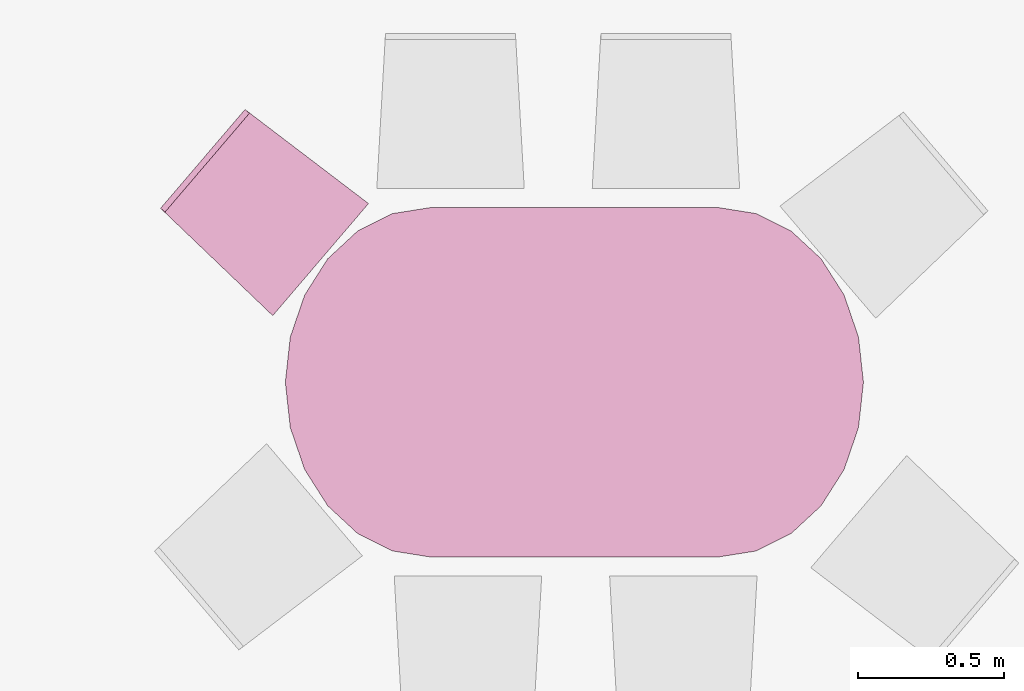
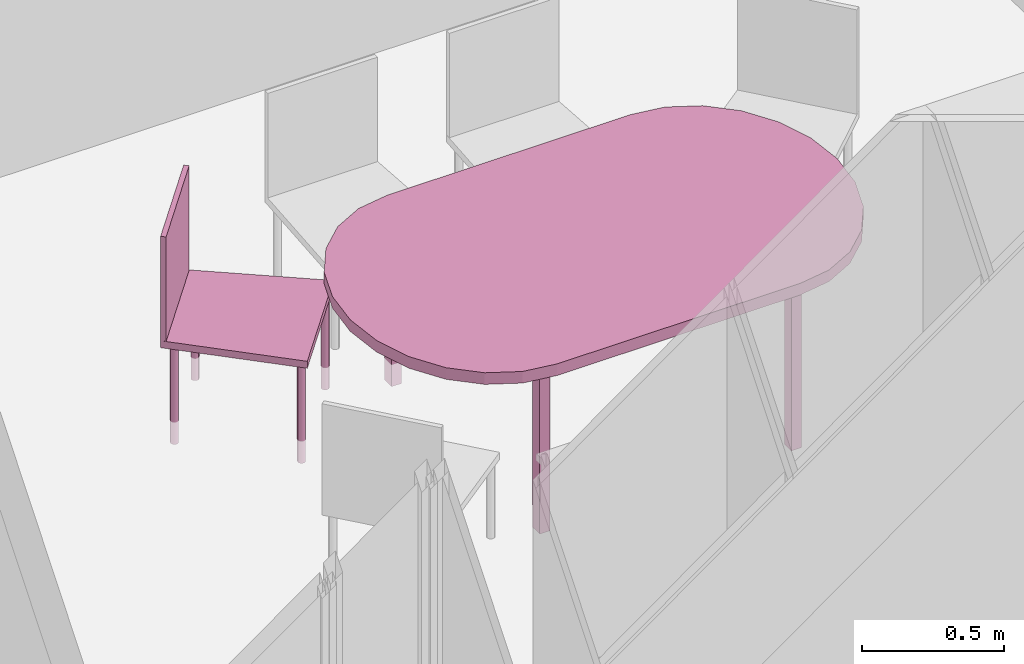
"""IFC4 building model written with IfcOpenShell, lengths in metres."""

from ifc_helpers import new_model, entity, si_unit, converted_unit, derived_unit, frame, origin, place, context, subcontext, project, spatial, faceted_brep, element, save


model = new_model("IFC4")

# Units and contexts
model_context = context("Model", 3, precision=1e-05, world=origin())
body_context = subcontext(model_context, "Body", "Model", "MODEL_VIEW")
ifc_project = project(units=[si_unit("LENGTHUNIT", "METRE"), si_unit("AREAUNIT", "SQUARE_METRE"), si_unit("VOLUMEUNIT", "CUBIC_METRE"), si_unit("MASSUNIT", "GRAM", prefix="KILO"), converted_unit("PLANEANGLEUNIT", "DEGREE", entity("IfcPlaneAngleMeasure", 0.0174532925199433), si_unit("PLANEANGLEUNIT", "RADIAN"), dimensions=[0, 0, 0, 0, 0, 0, 0]), derived_unit("THERMALTRANSMITTANCEUNIT", [(si_unit("POWERUNIT", "WATT"), 1), (si_unit("THERMODYNAMICTEMPERATUREUNIT", "KELVIN"), -1), (si_unit("LENGTHUNIT", "METRE"), -2)]), derived_unit("VOLUMETRICFLOWRATEUNIT", [(si_unit("LENGTHUNIT", "METRE"), 3), (converted_unit("TIMEUNIT", "hour", entity("IfcTimeMeasure", 3600.0), si_unit("TIMEUNIT", "SECOND"), dimensions=[0, 0, 1, 0, 0, 0, 0]), -1), (si_unit("LENGTHUNIT", "METRE"), -1)])], contexts=[model_context])

# Building, storeys
building_placement = place(None, origin())
building = spatial("IfcBuilding", under=ifc_project, at=building_placement, Name="HABITATGE PLURIFAMILIAR", CompositionType="ELEMENT")
storey_1_placement = place(building_placement, frame((0.0, 0.0, 12.27)))
storey_1 = spatial("IfcBuildingStorey", under=building, at=storey_1_placement, Name="PLANTA TERCERA", CompositionType="ELEMENT", Elevation=12.27)
storey_2_placement = place(storey_1_placement, frame((0.0, 0.0, 9.26)))
storey_2 = spatial("IfcBuildingStorey", under=storey_1, at=storey_2_placement, Name="NOU", CompositionType="PARTIAL")

# Furniture
furniture_1_placement = place(storey_2_placement, frame((407.679228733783, 14.3792976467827, -9.35624107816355)))
element("IfcFurniture", 1, at=furniture_1_placement, inside=storey_2, Name="Taula 200X120_P3", context=body_context, shape_type="Brep", body=[
    faceted_brep([(1.48958895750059, 1.19989999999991, 0.7), (0.496502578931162, 1.19989999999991, 0.7), (0.367998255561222, 1.17945719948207, 0.7), (0.248251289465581, 1.11952194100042, 0.7), (0.145422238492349, 1.02417871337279, 0.7), (0.0665187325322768, 0.89992499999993, 0.7), (0.0169179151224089, 0.755228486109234, 0.7), (0.0, 0.599949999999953, 0.7), (0.0169179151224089, 0.444671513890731, 0.7), (0.0665187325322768, 0.299974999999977, 0.7), (0.145422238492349, 0.175721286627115, 0.7), (0.248251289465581, 0.080378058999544, 0.7), (0.367998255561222, 0.0204428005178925, 0.7), (0.496502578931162, 0.0, 0.7), (1.48958895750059, 0.0, 0.7), (1.61809328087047, 0.0204428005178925, 0.7), (1.73784024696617, 0.080378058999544, 0.7), (1.8406692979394, 0.175721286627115, 0.7), (1.91957280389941, 0.299974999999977, 0.7), (1.96917362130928, 0.444671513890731, 0.7), (1.98609153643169, 0.599949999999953, 0.7), (1.96917362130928, 0.755228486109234, 0.7), (1.91957280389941, 0.89992499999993, 0.7), (1.8406692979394, 1.02417871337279, 0.7), (1.73784024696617, 1.11952194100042, 0.7), (1.61809328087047, 1.17945719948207, 0.7), (1.48958895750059, 0.0, 0.75), (0.496502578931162, 0.0, 0.75), (0.367998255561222, 0.0204428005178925, 0.75), (0.248251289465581, 0.080378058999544, 0.75), (0.145422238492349, 0.175721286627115, 0.75), (0.0665187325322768, 0.299974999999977, 0.75), (0.0169179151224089, 0.444671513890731, 0.75), (0.0, 0.599949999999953, 0.75), (0.0169179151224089, 0.755228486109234, 0.75), (0.0665187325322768, 0.89992499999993, 0.75), (0.145422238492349, 1.02417871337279, 0.75), (0.248251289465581, 1.11952194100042, 0.75), (0.367998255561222, 1.17945719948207, 0.75), (0.496502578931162, 1.19989999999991, 0.75), (1.48958895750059, 1.19989999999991, 0.75), (1.61809328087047, 1.17945719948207, 0.75), (1.73784024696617, 1.11952194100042, 0.75), (1.8406692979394, 1.02417871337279, 0.75), (1.91957280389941, 0.89992499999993, 0.75), (1.96917362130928, 0.755228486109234, 0.75), (1.98609153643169, 0.599949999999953, 0.75), (1.96917362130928, 0.444671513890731, 0.75), (1.91957280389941, 0.299974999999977, 0.75), (1.8406692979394, 0.175721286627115, 0.75), (1.73784024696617, 0.080378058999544, 0.75), (1.61809328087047, 0.0204428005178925, 0.75)], [[[0, 1, 2, 3, 4, 5, 6, 7, 8, 9, 10, 11, 12, 13, 14, 15, 16, 17, 18, 19, 20, 21, 22, 23, 24, 25]], [[26, 27, 28, 29, 30, 31, 32, 33, 34, 35, 36, 37, 38, 39, 40, 41, 42, 43, 44, 45, 46, 47, 48, 49, 50, 51]], [[40, 39, 1, 0]], [[40, 0, 25, 41]], [[41, 25, 24, 42]], [[42, 24, 23, 43]], [[43, 23, 22, 44]], [[44, 22, 21, 45]], [[45, 21, 20, 46]], [[46, 20, 19, 47]], [[47, 19, 18, 48]], [[48, 18, 17, 49]], [[49, 17, 16, 50]], [[50, 16, 15, 51]], [[51, 15, 14, 26]], [[27, 26, 14, 13]], [[27, 13, 12, 28]], [[28, 12, 11, 29]], [[29, 11, 10, 30]], [[30, 10, 9, 31]], [[31, 9, 8, 32]], [[32, 8, 7, 33]], [[33, 7, 6, 34]], [[34, 6, 5, 35]], [[35, 5, 4, 36]], [[36, 4, 3, 37]], [[37, 3, 2, 38]], [[38, 2, 1, 39]]], orient=[[False], [False], [False], [False], [False], [False], [False], [False], [False], [False], [False], [False], [False], [False], [False], [False], [False], [False], [False], [False], [False], [False], [False], [False], [False], [False], [False], [False]]),
    faceted_brep([(0.455123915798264, 0.05, 0.0), (0.496502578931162, 0.05, 0.0), (0.496502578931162, 0.1, 0.0), (0.455123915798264, 0.1, 0.0), (0.496502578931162, 0.05, 0.7), (0.455123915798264, 0.05, 0.7), (0.455123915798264, 0.1, 0.7), (0.496502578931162, 0.1, 0.7)], [[[0, 1, 2, 3]], [[4, 5, 6, 7]], [[1, 0, 5, 4]], [[2, 1, 4, 7]], [[3, 2, 7, 6]], [[0, 3, 6, 5]]], orient=[[False], [False], [False], [False], [False], [False]]),
    faceted_brep([(0.455123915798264, 1.09781286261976, 0.0), (0.496502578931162, 1.09781286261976, 0.0), (0.496502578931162, 1.14781286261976, 0.0), (0.455123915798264, 1.14781286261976, 0.0), (0.496502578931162, 1.09781286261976, 0.7), (0.455123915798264, 1.09781286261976, 0.7), (0.455123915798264, 1.14781286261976, 0.7), (0.496502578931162, 1.14781286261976, 0.7)], [[[0, 1, 2, 3]], [[4, 5, 6, 7]], [[1, 0, 5, 4]], [[2, 1, 4, 7]], [[3, 2, 7, 6]], [[0, 3, 6, 5]]], orient=[[False], [False], [False], [False], [False], [False]]),
    faceted_brep([(1.48131476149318, 1.14781286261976, 0.0), (1.48131476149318, 1.09781286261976, 0.0), (1.52269342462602, 1.09781286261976, 0.0), (1.52269342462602, 1.14781286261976, 0.0), (1.52269342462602, 1.14781286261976, 0.7), (1.52269342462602, 1.09781286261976, 0.7), (1.48131476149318, 1.09781286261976, 0.7), (1.48131476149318, 1.14781286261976, 0.7)], [[[0, 1, 2, 3]], [[4, 5, 6, 7]], [[3, 4, 7, 0]], [[2, 5, 4, 3]], [[1, 6, 5, 2]], [[0, 7, 6, 1]]], orient=[[False], [False], [False], [False], [False], [False]]),
    faceted_brep([(1.48131476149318, 0.1, 0.0), (1.48131476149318, 0.05, 0.0), (1.52269342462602, 0.05, 0.0), (1.52269342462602, 0.1, 0.0), (1.52269342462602, 0.1, 0.7), (1.52269342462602, 0.05, 0.7), (1.48131476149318, 0.05, 0.7), (1.48131476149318, 0.1, 0.7)], [[[0, 1, 2, 3]], [[4, 5, 6, 7]], [[3, 4, 7, 0]], [[2, 5, 4, 3]], [[1, 6, 5, 2]], [[0, 7, 6, 1]]], orient=[[False], [False], [False], [False], [False], [False]]),
])
furniture_2_placement = place(storey_2_placement, frame((407.250552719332, 15.2082195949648, -9.35699031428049)))
element("IfcFurniture", 2, at=furniture_2_placement, inside=storey_2, Name="Cadira confident_P3", context=body_context, shape_type="Brep", body=[
    faceted_brep([(0.68936615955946, 0.394320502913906, 0.0), (0.687247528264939, 0.39583430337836, 0.0), (0.684898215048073, 0.396957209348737, 0.0), (0.682389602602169, 0.3976551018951, 0.0), (0.679797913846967, 0.397906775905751, 0.0), (0.677201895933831, 0.397704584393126, 0.0), (0.674680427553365, 0.397054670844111, 0.0), (0.672310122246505, 0.395976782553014, 0.0), (0.6701630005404, 0.394503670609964, 0.0), (0.668304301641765, 0.392680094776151, 0.0), (0.666790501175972, 0.390561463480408, 0.0), (0.665667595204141, 0.388212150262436, 0.0), (0.664969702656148, 0.385703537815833, 0.0), (0.664718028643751, 0.383111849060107, 0.0), (0.66492022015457, 0.380515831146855, 0.0), (0.665570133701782, 0.377994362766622, 0.0), (0.666648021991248, 0.375624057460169, 0.0), (0.668121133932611, 0.373476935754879, 0.0), (0.669944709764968, 0.371618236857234, 0.0), (0.672063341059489, 0.370104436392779, 0.0), (0.674412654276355, 0.368981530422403, 0.0), (0.676921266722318, 0.36828363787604, 0.0), (0.679512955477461, 0.368031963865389, 0.0), (0.682108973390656, 0.368234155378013, 0.0), (0.684630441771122, 0.368884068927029, 0.0), (0.687000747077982, 0.369961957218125, 0.0), (0.689147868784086, 0.371435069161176, 0.0), (0.691006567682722, 0.373258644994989, 0.0), (0.692520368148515, 0.375377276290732, 0.0), (0.693643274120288, 0.377726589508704, 0.0), (0.694341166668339, 0.380235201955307, 0.0), (0.694592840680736, 0.382826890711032, 0.0), (0.694390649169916, 0.385422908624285, 0.0), (0.693740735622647, 0.387944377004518, 0.0), (0.692662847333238, 0.390314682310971, 0.0), (0.691189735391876, 0.39246180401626, 0.0), (0.68936615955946, 0.394320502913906, 0.448281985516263), (0.691189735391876, 0.39246180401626, 0.448281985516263), (0.692662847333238, 0.390314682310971, 0.448281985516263), (0.693740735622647, 0.387944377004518, 0.448281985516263), (0.694390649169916, 0.385422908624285, 0.448281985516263), (0.694592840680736, 0.382826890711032, 0.448281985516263), (0.694341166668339, 0.380235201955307, 0.448281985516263), (0.693643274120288, 0.377726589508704, 0.448281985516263), (0.692520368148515, 0.375377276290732, 0.448281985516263), (0.691006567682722, 0.373258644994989, 0.448281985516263), (0.689147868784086, 0.371435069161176, 0.448281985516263), (0.687000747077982, 0.369961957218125, 0.448281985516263), (0.684630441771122, 0.368884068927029, 0.448281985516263), (0.682108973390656, 0.368234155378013, 0.448281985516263), (0.679512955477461, 0.368031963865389, 0.448281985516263), (0.676921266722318, 0.36828363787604, 0.448281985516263), (0.674412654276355, 0.368981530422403, 0.448281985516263), (0.672063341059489, 0.370104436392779, 0.448281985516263), (0.669944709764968, 0.371618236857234, 0.448281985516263), (0.668121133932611, 0.373476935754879, 0.448281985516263), (0.666648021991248, 0.375624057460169, 0.448281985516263), (0.665570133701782, 0.377994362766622, 0.448281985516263), (0.66492022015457, 0.380515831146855, 0.448281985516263), (0.664718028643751, 0.383111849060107, 0.448281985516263), (0.664969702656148, 0.385703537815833, 0.448281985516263), (0.665667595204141, 0.388212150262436, 0.448281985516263), (0.666790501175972, 0.390561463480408, 0.448281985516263), (0.668304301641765, 0.392680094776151, 0.448281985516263), (0.6701630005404, 0.394503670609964, 0.448281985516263), (0.672310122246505, 0.395976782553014, 0.448281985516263), (0.674680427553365, 0.397054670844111, 0.448281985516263), (0.677201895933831, 0.397704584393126, 0.448281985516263), (0.679797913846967, 0.397906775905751, 0.448281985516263), (0.682389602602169, 0.3976551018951, 0.448281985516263), (0.684898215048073, 0.396957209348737, 0.448281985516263), (0.687247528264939, 0.39583430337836, 0.448281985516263)], [[[0, 1, 2, 3, 4, 5, 6, 7, 8, 9, 10, 11, 12, 13, 14, 15, 16, 17, 18, 19, 20, 21, 22, 23, 24, 25, 26, 27, 28, 29, 30, 31, 32, 33, 34, 35]], [[36, 37, 38, 39, 40, 41, 42, 43, 44, 45, 46, 47, 48, 49, 50, 51, 52, 53, 54, 55, 56, 57, 58, 59, 60, 61, 62, 63, 64, 65, 66, 67, 68, 69, 70, 71]], [[1, 0, 36, 71]], [[2, 1, 71, 70]], [[3, 2, 70, 69]], [[4, 3, 69, 68]], [[5, 4, 68, 67]], [[6, 5, 67, 66]], [[7, 6, 66, 65]], [[8, 7, 65, 64]], [[9, 8, 64, 63]], [[10, 9, 63, 62]], [[11, 10, 62, 61]], [[12, 11, 61, 60]], [[13, 12, 60, 59]], [[14, 13, 59, 58]], [[15, 14, 58, 57]], [[16, 15, 57, 56]], [[17, 16, 56, 55]], [[18, 17, 55, 54]], [[19, 18, 54, 53]], [[20, 19, 53, 52]], [[21, 20, 52, 51]], [[22, 21, 51, 50]], [[23, 22, 50, 49]], [[24, 23, 49, 48]], [[25, 24, 48, 47]], [[26, 25, 47, 46]], [[27, 26, 46, 45]], [[28, 27, 45, 44]], [[29, 28, 44, 43]], [[30, 29, 43, 42]], [[31, 30, 42, 41]], [[32, 31, 41, 40]], [[33, 32, 40, 39]], [[34, 33, 39, 38]], [[35, 34, 38, 37]], [[0, 35, 37, 36]]], orient=[[False], [False], [False], [False], [False], [False], [False], [False], [False], [False], [False], [False], [False], [False], [False], [False], [False], [False], [False], [False], [False], [False], [False], [False], [False], [False], [False], [False], [False], [False], [False], [False], [False], [False], [False], [False], [False], [False]]),
    faceted_brep([(0.319861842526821, 0.673696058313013, 0.0), (0.3177432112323, 0.675209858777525, 0.0), (0.315393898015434, 0.676332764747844, 0.0), (0.312885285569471, 0.677030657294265, 0.0), (0.31029359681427, 0.677282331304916, 0.0), (0.307697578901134, 0.677080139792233, 0.0), (0.305176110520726, 0.676430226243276, 0.0), (0.302805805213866, 0.675352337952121, 0.0), (0.300658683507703, 0.673879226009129, 0.0), (0.298799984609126, 0.672055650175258, 0.0), (0.297286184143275, 0.669937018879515, 0.0), (0.296163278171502, 0.667587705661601, 0.0), (0.295465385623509, 0.665079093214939, 0.0), (0.295213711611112, 0.662487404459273, 0.0), (0.295415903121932, 0.659891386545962, 0.0), (0.296065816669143, 0.657369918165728, 0.0), (0.297143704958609, 0.654999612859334, 0.0), (0.298616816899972, 0.652852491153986, 0.0), (0.300440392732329, 0.650993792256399, 0.0), (0.30255902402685, 0.649479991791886, 0.0), (0.304908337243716, 0.648357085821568, 0.0), (0.307416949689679, 0.647659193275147, 0.0), (0.31000863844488, 0.647407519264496, 0.0), (0.312604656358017, 0.647609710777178, 0.0), (0.315126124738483, 0.648259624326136, 0.0), (0.317496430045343, 0.64933751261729, 0.0), (0.319643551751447, 0.650810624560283, 0.0), (0.321502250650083, 0.652634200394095, 0.0), (0.323016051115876, 0.654752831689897, 0.0), (0.324138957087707, 0.657102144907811, 0.0), (0.3248368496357, 0.659610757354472, 0.0), (0.325088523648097, 0.662202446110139, 0.0), (0.324886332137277, 0.66479846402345, 0.0), (0.324236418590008, 0.667319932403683, 0.0), (0.3231585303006, 0.669690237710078, 0.0), (0.321685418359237, 0.671837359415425, 0.0), (0.319861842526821, 0.673696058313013, 0.448281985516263), (0.321685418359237, 0.671837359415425, 0.448281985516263), (0.3231585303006, 0.669690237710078, 0.448281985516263), (0.324236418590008, 0.667319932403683, 0.448281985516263), (0.324886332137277, 0.66479846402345, 0.448281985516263), (0.325088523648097, 0.662202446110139, 0.448281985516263), (0.3248368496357, 0.659610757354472, 0.448281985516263), (0.324138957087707, 0.657102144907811, 0.448281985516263), (0.323016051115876, 0.654752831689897, 0.448281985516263), (0.321502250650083, 0.652634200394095, 0.448281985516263), (0.319643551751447, 0.650810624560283, 0.448281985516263), (0.317496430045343, 0.64933751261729, 0.448281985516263), (0.315126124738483, 0.648259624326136, 0.448281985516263), (0.312604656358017, 0.647609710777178, 0.448281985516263), (0.31000863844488, 0.647407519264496, 0.448281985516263), (0.307416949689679, 0.647659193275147, 0.448281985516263), (0.304908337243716, 0.648357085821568, 0.448281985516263), (0.30255902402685, 0.649479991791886, 0.448281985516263), (0.300440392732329, 0.650993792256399, 0.448281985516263), (0.298616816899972, 0.652852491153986, 0.448281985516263), (0.297143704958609, 0.654999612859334, 0.448281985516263), (0.296065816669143, 0.657369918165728, 0.448281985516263), (0.295415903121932, 0.659891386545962, 0.448281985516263), (0.295213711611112, 0.662487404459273, 0.448281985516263), (0.295465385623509, 0.665079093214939, 0.448281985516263), (0.296163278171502, 0.667587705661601, 0.448281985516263), (0.297286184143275, 0.669937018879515, 0.448281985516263), (0.298799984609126, 0.672055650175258, 0.448281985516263), (0.300658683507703, 0.673879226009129, 0.448281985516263), (0.302805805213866, 0.675352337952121, 0.448281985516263), (0.305176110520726, 0.676430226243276, 0.448281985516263), (0.307697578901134, 0.677080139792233, 0.448281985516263), (0.31029359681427, 0.677282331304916, 0.448281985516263), (0.312885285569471, 0.677030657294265, 0.448281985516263), (0.315393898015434, 0.676332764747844, 0.448281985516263), (0.3177432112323, 0.675209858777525, 0.448281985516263)], [[[0, 1, 2, 3, 4, 5, 6, 7, 8, 9, 10, 11, 12, 13, 14, 15, 16, 17, 18, 19, 20, 21, 22, 23, 24, 25, 26, 27, 28, 29, 30, 31, 32, 33, 34, 35]], [[36, 37, 38, 39, 40, 41, 42, 43, 44, 45, 46, 47, 48, 49, 50, 51, 52, 53, 54, 55, 56, 57, 58, 59, 60, 61, 62, 63, 64, 65, 66, 67, 68, 69, 70, 71]], [[1, 0, 36, 71]], [[2, 1, 71, 70]], [[3, 2, 70, 69]], [[4, 3, 69, 68]], [[5, 4, 68, 67]], [[6, 5, 67, 66]], [[7, 6, 66, 65]], [[8, 7, 65, 64]], [[9, 8, 64, 63]], [[10, 9, 63, 62]], [[11, 10, 62, 61]], [[12, 11, 61, 60]], [[13, 12, 60, 59]], [[14, 13, 59, 58]], [[15, 14, 58, 57]], [[16, 15, 57, 56]], [[17, 16, 56, 55]], [[18, 17, 55, 54]], [[19, 18, 54, 53]], [[20, 19, 53, 52]], [[21, 20, 52, 51]], [[22, 21, 51, 50]], [[23, 22, 50, 49]], [[24, 23, 49, 48]], [[25, 24, 48, 47]], [[26, 25, 47, 46]], [[27, 26, 46, 45]], [[28, 27, 45, 44]], [[29, 28, 44, 43]], [[30, 29, 43, 42]], [[31, 30, 42, 41]], [[32, 31, 41, 40]], [[33, 32, 40, 39]], [[34, 33, 39, 38]], [[35, 34, 38, 37]], [[0, 35, 37, 36]]], orient=[[False], [False], [False], [False], [False], [False], [False], [False], [False], [False], [False], [False], [False], [False], [False], [False], [False], [False], [False], [False], [False], [False], [False], [False], [False], [False], [False], [False], [False], [False], [False], [False], [False], [False], [False], [False], [False], [False]]),
    faceted_brep([(0.390542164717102, 0.0446002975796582, 0.0), (0.388423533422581, 0.0461140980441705, 0.0), (0.386074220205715, 0.0472370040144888, 0.0), (0.383565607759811, 0.0479348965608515, 0.0), (0.380973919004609, 0.0481865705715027, 0.0), (0.378377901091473, 0.0479843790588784, 0.0), (0.375856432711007, 0.0473344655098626, 0.0), (0.373486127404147, 0.0462565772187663, 0.0), (0.371339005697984, 0.0447834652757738, 0.0), (0.369480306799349, 0.0429598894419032, 0.0), (0.367966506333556, 0.0408412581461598, 0.0), (0.366843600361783, 0.0384919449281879, 0.0), (0.36614570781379, 0.0359833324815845, 0.0), (0.365894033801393, 0.0333916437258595, 0.0), (0.366096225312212, 0.0307956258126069, 0.0), (0.366746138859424, 0.0282741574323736, 0.0), (0.36782402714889, 0.0259038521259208, 0.0), (0.369297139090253, 0.0237567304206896, 0.0), (0.37112071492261, 0.0218980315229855, 0.0), (0.373239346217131, 0.0203842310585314, 0.0), (0.375588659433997, 0.019261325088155, 0.0), (0.378097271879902, 0.0185634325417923, 0.0), (0.380688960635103, 0.0183117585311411, 0.0), (0.383284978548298, 0.0185139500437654, 0.0), (0.385806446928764, 0.0191638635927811, 0.0), (0.388176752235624, 0.0202417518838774, 0.0), (0.39032387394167, 0.0217148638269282, 0.0), (0.392182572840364, 0.0235384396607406, 0.0), (0.393696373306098, 0.0256570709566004, 0.0), (0.39481927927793, 0.0280063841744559, 0.0), (0.395517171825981, 0.0305149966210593, 0.0), (0.395768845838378, 0.0331066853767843, 0.0), (0.395566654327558, 0.0357027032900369, 0.0), (0.394916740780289, 0.0382241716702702, 0.0), (0.393838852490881, 0.0405944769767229, 0.0), (0.392365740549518, 0.0427415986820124, 0.0), (0.390542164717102, 0.0446002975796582, 0.448281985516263), (0.392365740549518, 0.0427415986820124, 0.448281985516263), (0.393838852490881, 0.0405944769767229, 0.448281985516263), (0.394916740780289, 0.0382241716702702, 0.448281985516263), (0.395566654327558, 0.0357027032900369, 0.448281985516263), (0.395768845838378, 0.0331066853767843, 0.448281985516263), (0.395517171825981, 0.0305149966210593, 0.448281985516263), (0.39481927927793, 0.0280063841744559, 0.448281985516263), (0.393696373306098, 0.0256570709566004, 0.448281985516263), (0.392182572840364, 0.0235384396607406, 0.448281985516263), (0.39032387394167, 0.0217148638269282, 0.448281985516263), (0.388176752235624, 0.0202417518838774, 0.448281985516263), (0.385806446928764, 0.0191638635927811, 0.448281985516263), (0.383284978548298, 0.0185139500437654, 0.448281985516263), (0.380688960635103, 0.0183117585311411, 0.448281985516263), (0.378097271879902, 0.0185634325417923, 0.448281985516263), (0.375588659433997, 0.019261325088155, 0.448281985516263), (0.373239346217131, 0.0203842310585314, 0.448281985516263), (0.37112071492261, 0.0218980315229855, 0.448281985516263), (0.369297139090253, 0.0237567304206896, 0.448281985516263), (0.36782402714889, 0.0259038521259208, 0.448281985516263), (0.366746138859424, 0.0282741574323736, 0.448281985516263), (0.366096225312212, 0.0307956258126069, 0.448281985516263), (0.365894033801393, 0.0333916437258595, 0.448281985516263), (0.36614570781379, 0.0359833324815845, 0.448281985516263), (0.366843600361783, 0.0384919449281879, 0.448281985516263), (0.367966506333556, 0.0408412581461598, 0.448281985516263), (0.369480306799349, 0.0429598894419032, 0.448281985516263), (0.371339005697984, 0.0447834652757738, 0.448281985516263), (0.373486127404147, 0.0462565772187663, 0.448281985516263), (0.375856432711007, 0.0473344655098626, 0.448281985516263), (0.378377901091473, 0.0479843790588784, 0.448281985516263), (0.380973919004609, 0.0481865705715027, 0.448281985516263), (0.383565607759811, 0.0479348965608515, 0.448281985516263), (0.386074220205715, 0.0472370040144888, 0.448281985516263), (0.388423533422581, 0.0461140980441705, 0.448281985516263)], [[[0, 1, 2, 3, 4, 5, 6, 7, 8, 9, 10, 11, 12, 13, 14, 15, 16, 17, 18, 19, 20, 21, 22, 23, 24, 25, 26, 27, 28, 29, 30, 31, 32, 33, 34, 35]], [[36, 37, 38, 39, 40, 41, 42, 43, 44, 45, 46, 47, 48, 49, 50, 51, 52, 53, 54, 55, 56, 57, 58, 59, 60, 61, 62, 63, 64, 65, 66, 67, 68, 69, 70, 71]], [[1, 0, 36, 71]], [[2, 1, 71, 70]], [[3, 2, 70, 69]], [[4, 3, 69, 68]], [[5, 4, 68, 67]], [[6, 5, 67, 66]], [[7, 6, 66, 65]], [[8, 7, 65, 64]], [[9, 8, 64, 63]], [[10, 9, 63, 62]], [[11, 10, 62, 61]], [[12, 11, 61, 60]], [[13, 12, 60, 59]], [[14, 13, 59, 58]], [[15, 14, 58, 57]], [[16, 15, 57, 56]], [[17, 16, 56, 55]], [[18, 17, 55, 54]], [[19, 18, 54, 53]], [[20, 19, 53, 52]], [[21, 20, 52, 51]], [[22, 21, 51, 50]], [[23, 22, 50, 49]], [[24, 23, 49, 48]], [[25, 24, 48, 47]], [[26, 25, 47, 46]], [[27, 26, 46, 45]], [[28, 27, 45, 44]], [[29, 28, 44, 43]], [[30, 29, 43, 42]], [[31, 30, 42, 41]], [[32, 31, 41, 40]], [[33, 32, 40, 39]], [[34, 33, 39, 38]], [[35, 34, 38, 37]], [[0, 35, 37, 36]]], orient=[[False], [False], [False], [False], [False], [False], [False], [False], [False], [False], [False], [False], [False], [False], [False], [False], [False], [False], [False], [False], [False], [False], [False], [False], [False], [False], [False], [False], [False], [False], [False], [False], [False], [False], [False], [False], [False], [False]]),
    faceted_brep([(0.0600148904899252, 0.369591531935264, 0.0), (0.0578962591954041, 0.371105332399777, 0.0), (0.0555469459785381, 0.372228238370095, 0.0), (0.0530383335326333, 0.372926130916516, 0.0), (0.0504466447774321, 0.373177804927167, 0.0), (0.0478506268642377, 0.372975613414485, 0.0), (0.0453291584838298, 0.372325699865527, 0.0), (0.0429588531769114, 0.371247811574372, 0.0), (0.040811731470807, 0.36977469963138, 0.0), (0.0389530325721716, 0.367951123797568, 0.0), (0.0374392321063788, 0.365832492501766, 0.0), (0.0363163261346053, 0.363483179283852, 0.0), (0.0356184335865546, 0.360974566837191, 0.0), (0.0353667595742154, 0.358382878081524, 0.0), (0.035568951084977, 0.355786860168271, 0.0), (0.0362188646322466, 0.35326539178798, 0.0), (0.0372967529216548, 0.350895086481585, 0.0), (0.0387698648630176, 0.348747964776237, 0.0), (0.0405934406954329, 0.34688926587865, 0.0), (0.0427120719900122, 0.345375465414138, 0.0), (0.0450613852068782, 0.344252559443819, 0.0), (0.0475699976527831, 0.343554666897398, 0.0), (0.0501616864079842, 0.343302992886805, 0.0), (0.0527577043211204, 0.34350518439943, 0.0), (0.0552791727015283, 0.344155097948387, 0.0), (0.0576494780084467, 0.345232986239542, 0.0), (0.0597965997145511, 0.346706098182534, 0.0), (0.0616552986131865, 0.348529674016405, 0.0), (0.0631690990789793, 0.350648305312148, 0.0), (0.064292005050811, 0.352997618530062, 0.0), (0.0649898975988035, 0.355506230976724, 0.0), (0.0652415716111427, 0.35809791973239, 0.0), (0.0650393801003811, 0.360693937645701, 0.0), (0.0643894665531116, 0.363215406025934, 0.0), (0.0633115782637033, 0.365585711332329, 0.0), (0.0618384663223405, 0.367732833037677, 0.0), (0.0600148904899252, 0.369591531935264, 0.448281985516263), (0.0618384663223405, 0.367732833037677, 0.448281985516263), (0.0633115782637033, 0.365585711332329, 0.448281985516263), (0.0643894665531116, 0.363215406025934, 0.448281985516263), (0.0650393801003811, 0.360693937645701, 0.448281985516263), (0.0652415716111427, 0.35809791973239, 0.448281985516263), (0.0649898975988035, 0.355506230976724, 0.448281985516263), (0.064292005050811, 0.352997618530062, 0.448281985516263), (0.0631690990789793, 0.350648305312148, 0.448281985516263), (0.0616552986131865, 0.348529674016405, 0.448281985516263), (0.0597965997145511, 0.346706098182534, 0.448281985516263), (0.0576494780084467, 0.345232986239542, 0.448281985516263), (0.0552791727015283, 0.344155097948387, 0.448281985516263), (0.0527577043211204, 0.34350518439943, 0.448281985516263), (0.0501616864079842, 0.343302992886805, 0.448281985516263), (0.0475699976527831, 0.343554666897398, 0.448281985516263), (0.0450613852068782, 0.344252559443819, 0.448281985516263), (0.0427120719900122, 0.345375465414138, 0.448281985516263), (0.0405934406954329, 0.34688926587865, 0.448281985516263), (0.0387698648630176, 0.348747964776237, 0.448281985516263), (0.0372967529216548, 0.350895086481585, 0.448281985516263), (0.0362188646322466, 0.35326539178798, 0.448281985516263), (0.035568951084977, 0.355786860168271, 0.448281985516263), (0.0353667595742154, 0.358382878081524, 0.448281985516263), (0.0356184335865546, 0.360974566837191, 0.448281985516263), (0.0363163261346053, 0.363483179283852, 0.448281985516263), (0.0374392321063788, 0.365832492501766, 0.448281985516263), (0.0389530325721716, 0.367951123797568, 0.448281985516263), (0.040811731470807, 0.36977469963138, 0.448281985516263), (0.0429588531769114, 0.371247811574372, 0.448281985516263), (0.0453291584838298, 0.372325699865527, 0.448281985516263), (0.0478506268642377, 0.372975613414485, 0.448281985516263), (0.0504466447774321, 0.373177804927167, 0.448281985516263), (0.0530383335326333, 0.372926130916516, 0.448281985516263), (0.0555469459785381, 0.372228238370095, 0.448281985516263), (0.0578962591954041, 0.371105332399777, 0.448281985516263)], [[[0, 1, 2, 3, 4, 5, 6, 7, 8, 9, 10, 11, 12, 13, 14, 15, 16, 17, 18, 19, 20, 21, 22, 23, 24, 25, 26, 27, 28, 29, 30, 31, 32, 33, 34, 35]], [[36, 37, 38, 39, 40, 41, 42, 43, 44, 45, 46, 47, 48, 49, 50, 51, 52, 53, 54, 55, 56, 57, 58, 59, 60, 61, 62, 63, 64, 65, 66, 67, 68, 69, 70, 71]], [[1, 0, 36, 71]], [[2, 1, 71, 70]], [[3, 2, 70, 69]], [[4, 3, 69, 68]], [[5, 4, 68, 67]], [[6, 5, 67, 66]], [[7, 6, 66, 65]], [[8, 7, 65, 64]], [[9, 8, 64, 63]], [[10, 9, 63, 62]], [[11, 10, 62, 61]], [[12, 11, 61, 60]], [[13, 12, 60, 59]], [[14, 13, 59, 58]], [[15, 14, 58, 57]], [[16, 15, 57, 56]], [[17, 16, 56, 55]], [[18, 17, 55, 54]], [[19, 18, 54, 53]], [[20, 19, 53, 52]], [[21, 20, 52, 51]], [[22, 21, 51, 50]], [[23, 22, 50, 49]], [[24, 23, 49, 48]], [[25, 24, 48, 47]], [[26, 25, 47, 46]], [[27, 26, 46, 45]], [[28, 27, 45, 44]], [[29, 28, 44, 43]], [[30, 29, 43, 42]], [[31, 30, 42, 41]], [[32, 31, 41, 40]], [[33, 32, 40, 39]], [[34, 33, 39, 38]], [[35, 34, 38, 37]], [[0, 35, 37, 36]]], orient=[[False], [False], [False], [False], [False], [False], [False], [False], [False], [False], [False], [False], [False], [False], [False], [False], [False], [False], [False], [False], [False], [False], [False], [False], [False], [False], [False], [False], [False], [False], [False], [False], [False], [False], [False], [False], [False], [False]]),
    faceted_brep([(0.0, 0.368799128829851, 0.418281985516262), (0.385432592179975, 0.0, 0.418281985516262), (0.714473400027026, 0.385083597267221, 0.418281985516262), (0.29006376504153, 0.708267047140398, 0.418281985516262), (0.385432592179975, 0.0, 0.448281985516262), (0.0, 0.368799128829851, 0.448281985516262), (0.29006376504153, 0.708267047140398, 0.448281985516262), (0.714473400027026, 0.385083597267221, 0.448281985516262)], [[[0, 1, 2, 3]], [[4, 5, 6, 7]], [[1, 0, 5, 4]], [[2, 1, 4, 7]], [[3, 2, 7, 6]], [[0, 3, 6, 5]]], orient=[[False], [False], [False], [False], [False], [False]]),
    faceted_brep([(0.0152052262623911, 0.355806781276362, 0.448281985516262), (0.305268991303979, 0.695274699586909, 0.448281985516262), (0.29006376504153, 0.70826704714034, 0.448281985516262), (0.0, 0.368799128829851, 0.448281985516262), (0.305268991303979, 0.695274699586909, 0.89828198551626), (0.0152052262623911, 0.355806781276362, 0.89828198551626), (0.0, 0.368799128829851, 0.89828198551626), (0.29006376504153, 0.70826704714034, 0.89828198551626)], [[[0, 1, 2, 3]], [[4, 5, 6, 7]], [[1, 0, 5, 4]], [[2, 1, 4, 7]], [[3, 2, 7, 6]], [[0, 3, 6, 5]]], orient=[[False], [False], [False], [False], [False], [False]]),
])

save(model, "model.ifc")
